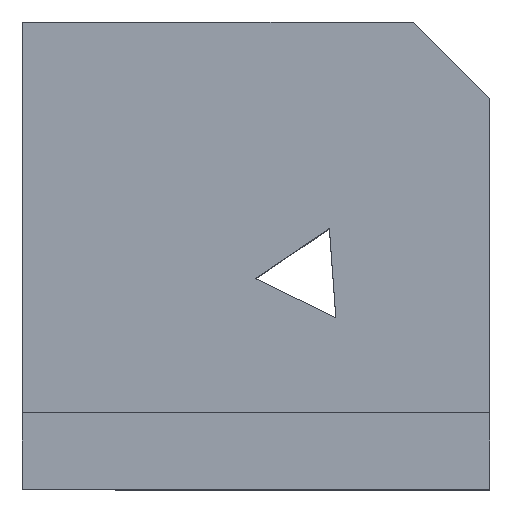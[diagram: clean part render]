
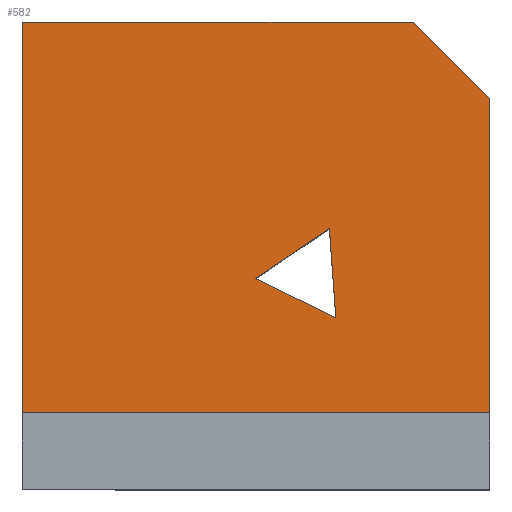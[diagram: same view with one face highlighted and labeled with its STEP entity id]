
A CAD part, top view. The second image highlights one B-rep face of the part: STEP entity #582.
In plain terms, the highlighted planar face has unit normal (0, 0, 1).
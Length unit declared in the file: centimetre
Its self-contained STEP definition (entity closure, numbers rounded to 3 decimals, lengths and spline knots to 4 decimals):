
#2 = CARTESIAN_POINT ( 'NONE',  ( 0., 0., 1000. ) ) ;
#54 = CARTESIAN_POINT ( 'NONE',  ( 918.3942, 918.3942, 1000. ) ) ;
#80 = VECTOR ( 'NONE', #893, 100. ) ;
#97 = CARTESIAN_POINT ( 'NONE',  ( 670.8904, 367.402, 1000. ) ) ;
#99 = CARTESIAN_POINT ( 'NONE',  ( 1000., 836.7884, 1000. ) ) ;
#103 = CARTESIAN_POINT ( 'NONE',  ( 0., 1000., 1000. ) ) ;
#107 = VERTEX_POINT ( 'NONE', #808 ) ;
#130 = ORIENTED_EDGE ( 'NONE', *, *, #352, .T. ) ;
#134 = LINE ( 'NONE', #667, #80 ) ;
#150 = CARTESIAN_POINT ( 'NONE',  ( 0., 1000., 1000. ) ) ;
#152 = DIRECTION ( 'NONE',  ( -0.9, 0.436, 0. ) ) ;
#164 = LINE ( 'NONE', #681, #1360 ) ;
#199 = LINE ( 'NONE', #524, #303 ) ;
#206 = VECTOR ( 'NONE', #1113, 100. ) ;
#259 = EDGE_CURVE ( 'NONE', #762, #107, #513, .T. ) ;
#289 = CARTESIAN_POINT ( 'NONE',  ( 1000., 163.8667, 1000. ) ) ;
#303 = VECTOR ( 'NONE', #718, 100. ) ;
#332 = DIRECTION ( 'NONE',  ( 0., 0., 1. ) ) ;
#352 = EDGE_CURVE ( 'NONE', #1373, #816, #1010, .T. ) ;
#393 = CARTESIAN_POINT ( 'NONE',  ( 657.0422, 558.4016, 1000. ) ) ;
#432 = EDGE_CURVE ( 'NONE', #762, #1373, #609, .T. ) ;
#502 = EDGE_CURVE ( 'NONE', #836, #107, #759, .T. ) ;
#513 = LINE ( 'NONE', #289, #925 ) ;
#520 = VERTEX_POINT ( 'NONE', #97 ) ;
#524 = CARTESIAN_POINT ( 'NONE',  ( 657.0422, 558.4016, 1000. ) ) ;
#530 = PLANE ( 'NONE',  #1047 ) ;
#580 = ORIENTED_EDGE ( 'NONE', *, *, #502, .T. ) ;
#582 = ADVANCED_FACE ( 'NONE', ( #629, #1358 ), #530, .T. ) ;
#609 = LINE ( 'NONE', #1119, #676 ) ;
#629 = FACE_OUTER_BOUND ( 'NONE', #1122, .T. ) ;
#642 = EDGE_CURVE ( 'NONE', #1013, #520, #134, .T. ) ;
#667 = CARTESIAN_POINT ( 'NONE',  ( 670.8904, 367.402, 1000. ) ) ;
#676 = VECTOR ( 'NONE', #1351, 100. ) ;
#681 = CARTESIAN_POINT ( 'NONE',  ( 498.5558, 450.909, 1000. ) ) ;
#688 = CARTESIAN_POINT ( 'NONE',  ( 836.7884, 1000., 1000. ) ) ;
#694 = ORIENTED_EDGE ( 'NONE', *, *, #432, .T. ) ;
#718 = DIRECTION ( 'NONE',  ( 0.828, 0.561, 0. ) ) ;
#734 = EDGE_LOOP ( 'NONE', ( #1377, #1064, #1007 ) ) ;
#759 = LINE ( 'NONE', #1081, #1354 ) ;
#762 = VERTEX_POINT ( 'NONE', #916 ) ;
#808 = CARTESIAN_POINT ( 'NONE',  ( 0., 163.8667, 1000. ) ) ;
#816 = VERTEX_POINT ( 'NONE', #688 ) ;
#836 = VERTEX_POINT ( 'NONE', #150 ) ;
#859 = DIRECTION ( 'NONE',  ( -1., 0., 0. ) ) ;
#893 = DIRECTION ( 'NONE',  ( 0.072, -0.997, 0. ) ) ;
#916 = CARTESIAN_POINT ( 'NONE',  ( 1000., 163.8667, 1000. ) ) ;
#925 = VECTOR ( 'NONE', #944, 100. ) ;
#944 = DIRECTION ( 'NONE',  ( -1., 0., 0. ) ) ;
#950 = DIRECTION ( 'NONE',  ( 0., -1., 0. ) ) ;
#959 = ORIENTED_EDGE ( 'NONE', *, *, #996, .T. ) ;
#961 = ORIENTED_EDGE ( 'NONE', *, *, #259, .F. ) ;
#996 = EDGE_CURVE ( 'NONE', #816, #836, #1067, .T. ) ;
#1007 = ORIENTED_EDGE ( 'NONE', *, *, #642, .T. ) ;
#1010 = LINE ( 'NONE', #54, #206 ) ;
#1013 = VERTEX_POINT ( 'NONE', #393 ) ;
#1047 = AXIS2_PLACEMENT_3D ( 'NONE', #2, #332, #1386 ) ;
#1064 = ORIENTED_EDGE ( 'NONE', *, *, #1392, .T. ) ;
#1067 = LINE ( 'NONE', #103, #1072 ) ;
#1072 = VECTOR ( 'NONE', #859, 100. ) ;
#1081 = CARTESIAN_POINT ( 'NONE',  ( 0., 1000., 1000. ) ) ;
#1113 = DIRECTION ( 'NONE',  ( -0.707, 0.707, 0. ) ) ;
#1119 = CARTESIAN_POINT ( 'NONE',  ( 1000., 1000., 1000. ) ) ;
#1122 = EDGE_LOOP ( 'NONE', ( #961, #694, #130, #959, #580 ) ) ;
#1195 = CARTESIAN_POINT ( 'NONE',  ( 498.5558, 450.909, 1000. ) ) ;
#1199 = VERTEX_POINT ( 'NONE', #1195 ) ;
#1287 = EDGE_CURVE ( 'NONE', #520, #1199, #164, .T. ) ;
#1351 = DIRECTION ( 'NONE',  ( 0., 1., 0. ) ) ;
#1354 = VECTOR ( 'NONE', #950, 100. ) ;
#1358 = FACE_BOUND ( 'NONE', #734, .T. ) ;
#1360 = VECTOR ( 'NONE', #152, 100. ) ;
#1373 = VERTEX_POINT ( 'NONE', #99 ) ;
#1377 = ORIENTED_EDGE ( 'NONE', *, *, #1287, .T. ) ;
#1386 = DIRECTION ( 'NONE',  ( 1., 0., 0. ) ) ;
#1392 = EDGE_CURVE ( 'NONE', #1199, #1013, #199, .T. ) ;
